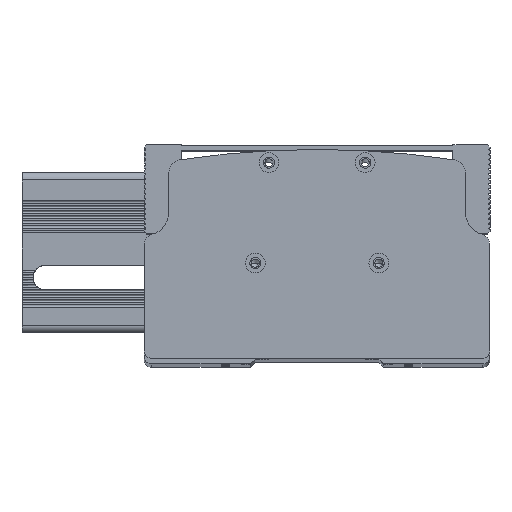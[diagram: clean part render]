
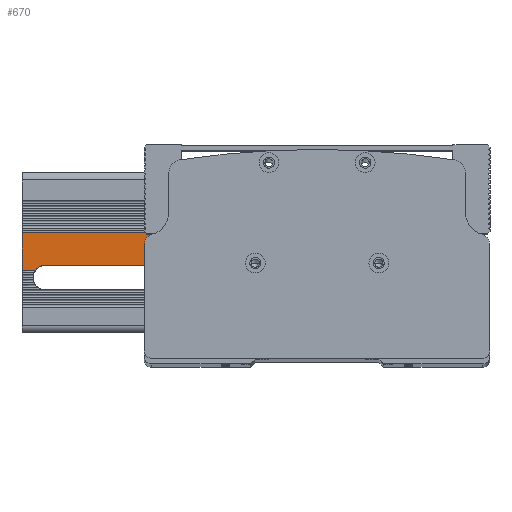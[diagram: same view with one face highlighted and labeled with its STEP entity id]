
A CAD part, top view. The second image highlights one B-rep face of the part: STEP entity #670.
In plain terms, the highlighted planar face has unit normal (0, 0, 1) as drawn and (-1, 0, 0) by its records, which use the part's own axes.
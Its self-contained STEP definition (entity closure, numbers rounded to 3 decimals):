
#670 = ADVANCED_FACE ( 'NONE', ( #15066 ), #26654, .F. ) ;
#816 = CARTESIAN_POINT ( 'NONE',  ( 0., 27.5, 9.5 ) ) ;
#1387 = ORIENTED_EDGE ( 'NONE', *, *, #41570, .F. ) ;
#1390 = CARTESIAN_POINT ( 'NONE',  ( 0., 40.5, 0. ) ) ;
#2534 = EDGE_CURVE ( 'NONE', #42756, #20235, #40721, .T. ) ;
#3073 = CARTESIAN_POINT ( 'NONE',  ( 0., 25.5, 87. ) ) ;
#4715 = LINE ( 'NONE', #36515, #34370 ) ;
#5552 = ORIENTED_EDGE ( 'NONE', *, *, #11369, .T. ) ;
#5913 = AXIS2_PLACEMENT_3D ( 'NONE', #10269, #38490, #14356 ) ;
#6527 = DIRECTION ( 'NONE',  ( 0., 0., -1. ) ) ;
#8529 = VECTOR ( 'NONE', #20209, 1000. ) ;
#8883 = EDGE_CURVE ( 'NONE', #12695, #48855, #36656, .T. ) ;
#9065 = CARTESIAN_POINT ( 'NONE',  ( 0., 25.5, 5.5 ) ) ;
#10269 = CARTESIAN_POINT ( 'NONE',  ( 0., 22.5, 9.5 ) ) ;
#10368 = DIRECTION ( 'NONE',  ( 0., 0., 1. ) ) ;
#10371 = DIRECTION ( 'NONE',  ( 0., -1., 0. ) ) ;
#10426 = CARTESIAN_POINT ( 'NONE',  ( 0., 22.5, 49.5 ) ) ;
#11369 = EDGE_CURVE ( 'NONE', #25481, #40149, #51601, .T. ) ;
#12449 = VECTOR ( 'NONE', #35216, 1000. ) ;
#12695 = VERTEX_POINT ( 'NONE', #49020 ) ;
#13265 = VERTEX_POINT ( 'NONE', #9065 ) ;
#13446 = EDGE_CURVE ( 'NONE', #20235, #13265, #43763, .T. ) ;
#14356 = DIRECTION ( 'NONE',  ( 0., 0., 1. ) ) ;
#14497 = CARTESIAN_POINT ( 'NONE',  ( 0., 0., 87. ) ) ;
#14503 = DIRECTION ( 'NONE',  ( 0., 0., 1. ) ) ;
#14627 = CIRCLE ( 'NONE', #24439, 5. ) ;
#15066 = FACE_OUTER_BOUND ( 'NONE', #25120, .T. ) ;
#15218 = VECTOR ( 'NONE', #21494, 1000. ) ;
#17476 = CARTESIAN_POINT ( 'NONE',  ( 0., 25.5, 148. ) ) ;
#19184 = CARTESIAN_POINT ( 'NONE',  ( 0., 0., 87. ) ) ;
#19375 = VECTOR ( 'NONE', #10371, 1000. ) ;
#19828 = CARTESIAN_POINT ( 'NONE',  ( 0., 27.5, 49.5 ) ) ;
#20209 = DIRECTION ( 'NONE',  ( 0., 0., -1. ) ) ;
#20235 = VERTEX_POINT ( 'NONE', #816 ) ;
#20971 = ORIENTED_EDGE ( 'NONE', *, *, #48317, .F. ) ;
#21494 = DIRECTION ( 'NONE',  ( 0., 0., 1. ) ) ;
#23841 = EDGE_CURVE ( 'NONE', #40149, #13265, #41000, .T. ) ;
#24439 = AXIS2_PLACEMENT_3D ( 'NONE', #10426, #38638, #14503 ) ;
#25120 = EDGE_LOOP ( 'NONE', ( #42475, #47290, #1387, #30984, #20971, #34290, #5552, #43991 ) ) ;
#25481 = VERTEX_POINT ( 'NONE', #1390 ) ;
#26654 = PLANE ( 'NONE',  #41251 ) ;
#28171 = CARTESIAN_POINT ( 'NONE',  ( 0., 27.5, 9.5 ) ) ;
#30292 = VECTOR ( 'NONE', #10368, 1000. ) ;
#30685 = CARTESIAN_POINT ( 'NONE',  ( 0., 0., 0. ) ) ;
#30731 = DIRECTION ( 'NONE',  ( 1., 0., 0. ) ) ;
#30984 = ORIENTED_EDGE ( 'NONE', *, *, #8883, .T. ) ;
#32999 = CARTESIAN_POINT ( 'NONE',  ( 0., 25.5, 0. ) ) ;
#34290 = ORIENTED_EDGE ( 'NONE', *, *, #38394, .T. ) ;
#34370 = VECTOR ( 'NONE', #40581, 1000. ) ;
#35171 = LINE ( 'NONE', #19184, #12449 ) ;
#35216 = DIRECTION ( 'NONE',  ( 0., -1., 0. ) ) ;
#36515 = CARTESIAN_POINT ( 'NONE',  ( 0., 40.5, 148. ) ) ;
#36656 = LINE ( 'NONE', #17476, #15218 ) ;
#38394 = EDGE_CURVE ( 'NONE', #52251, #25481, #4715, .T. ) ;
#38490 = DIRECTION ( 'NONE',  ( -1., 0., 0. ) ) ;
#38638 = DIRECTION ( 'NONE',  ( -1., 0., 0. ) ) ;
#40149 = VERTEX_POINT ( 'NONE', #32999 ) ;
#40581 = DIRECTION ( 'NONE',  ( 0., 0., -1. ) ) ;
#40721 = LINE ( 'NONE', #28171, #8529 ) ;
#41000 = LINE ( 'NONE', #50809, #30292 ) ;
#41251 = AXIS2_PLACEMENT_3D ( 'NONE', #14497, #30731, #6527 ) ;
#41570 = EDGE_CURVE ( 'NONE', #12695, #42756, #14627, .T. ) ;
#42475 = ORIENTED_EDGE ( 'NONE', *, *, #13446, .F. ) ;
#42756 = VERTEX_POINT ( 'NONE', #19828 ) ;
#43763 = CIRCLE ( 'NONE', #5913, 5. ) ;
#43991 = ORIENTED_EDGE ( 'NONE', *, *, #23841, .T. ) ;
#47290 = ORIENTED_EDGE ( 'NONE', *, *, #2534, .F. ) ;
#48317 = EDGE_CURVE ( 'NONE', #52251, #48855, #35171, .T. ) ;
#48855 = VERTEX_POINT ( 'NONE', #3073 ) ;
#49020 = CARTESIAN_POINT ( 'NONE',  ( 0., 25.5, 53.5 ) ) ;
#50248 = CARTESIAN_POINT ( 'NONE',  ( 0., 40.5, 87. ) ) ;
#50809 = CARTESIAN_POINT ( 'NONE',  ( 0., 25.5, 148. ) ) ;
#51601 = LINE ( 'NONE', #30685, #19375 ) ;
#52251 = VERTEX_POINT ( 'NONE', #50248 ) ;
